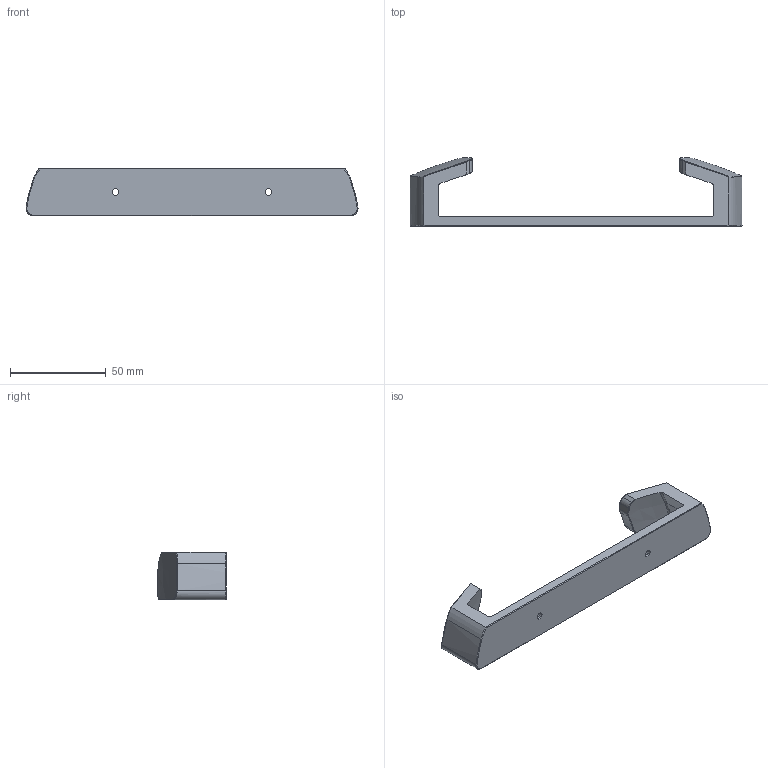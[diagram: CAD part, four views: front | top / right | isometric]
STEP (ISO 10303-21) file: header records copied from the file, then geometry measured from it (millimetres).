
FILE_DESCRIPTION (( 'STEP AP214' ), '1' );
FILE_NAME ('Topfdeckelhalterung 16cm.STEP', '2025-06-14T16:14:13', ( '' ), ( '' ), 'SwSTEP 2.0', 'SolidWorks 2012', '' );
FILE_SCHEMA (( 'AUTOMOTIVE_DESIGN' ));
Length unit declared in the file: millimetre
Products named in the file (1): Topfdeckelhalterung 16cm
Bounding box: 173.65 x 35.87 x 25 mm (x, y, z)
Volume: 35356.7 mm3; surface area: 15488.2 mm2
Topology: 1 solids, 1 shells, 113 faces, 283 edges, 170 vertices
Faces by surface type: bspline 50, cylinder 23, plane 20, cone 10, torus 10
Entity records: 5302 total; most frequent: CARTESIAN_POINT 3000, ORIENTED_EDGE 562, DIRECTION 349, EDGE_CURVE 281, VERTEX_POINT 170, AXIS2_PLACEMENT_3D 142, B_SPLINE_CURVE_WITH_KNOTS 132, EDGE_LOOP 117
